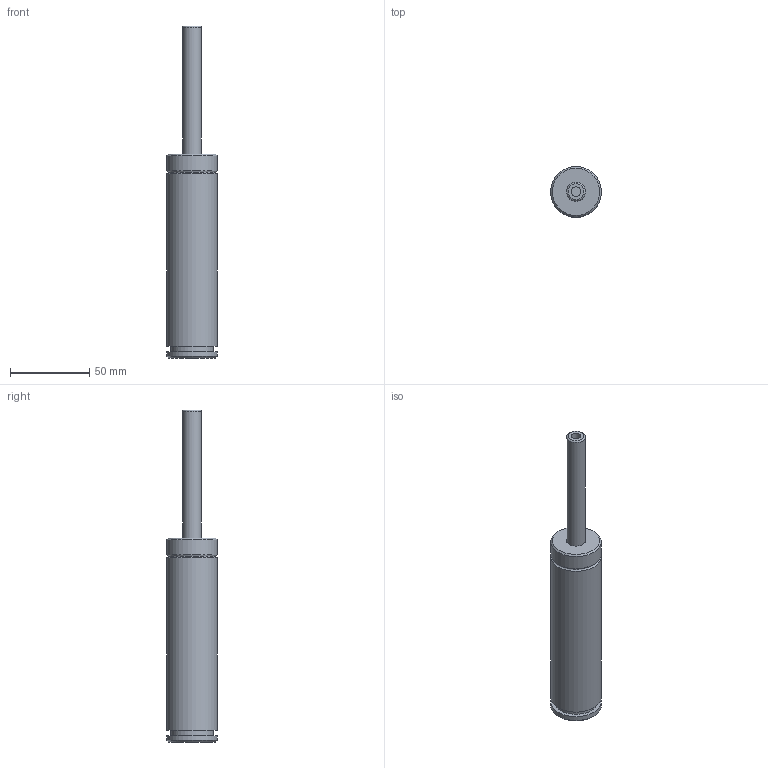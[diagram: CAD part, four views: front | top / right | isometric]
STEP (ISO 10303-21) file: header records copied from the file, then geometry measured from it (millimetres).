
FILE_DESCRIPTION(('FreeCAD Model'),'2;1');
FILE_NAME('Open CASCADE Shape Model','2024-11-14T10:13:46',('Author'),( ''),'Open CASCADE STEP processor 7.6','FreeCAD','Unknown');
FILE_SCHEMA(('AUTOMOTIVE_DESIGN { 1 0 10303 214 1 1 1 1 }'));
Length unit declared in the file: millimetre
Products named in the file (5): Unnamed; Part003; Cut; Part009; Cut003
Assembly tree (4 placements, depth 3):
  Unnamed
    Part003
      Cut
    Part009
      Cut003
Bounding box: 32 x 32 x 210 mm (x, y, z)
Volume: 110806 mm3; surface area: 18918.4 mm2
Topology: 2 solids, 2 shells, 24 faces, 36 edges, 22 vertices
Faces by surface type: plane 10, cylinder 9, torus 3, cone 2
Full cylindrical faces by diameter (mm): 6 x4, 12 x1, 27 x1, 32 x3
Entity records: 639 total; most frequent: DIRECTION 119, CARTESIAN_POINT 87, ORIENTED_EDGE 72, AXIS2_PLACEMENT_3D 54, EDGE_CURVE 36, FACE_BOUND 30, EDGE_LOOP 30, CIRCLE 25
